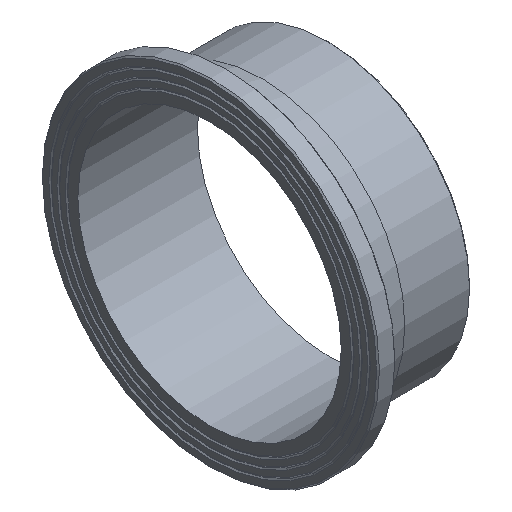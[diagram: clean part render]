
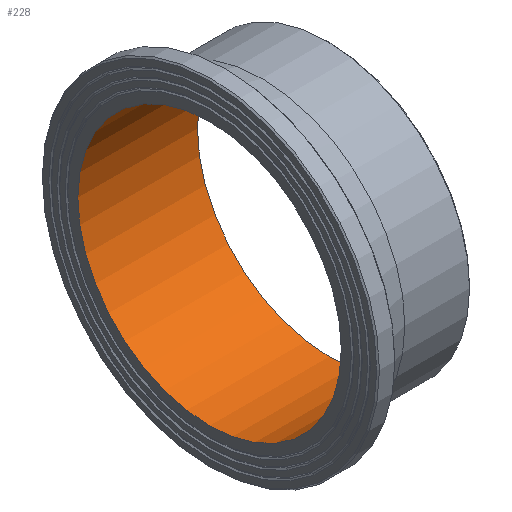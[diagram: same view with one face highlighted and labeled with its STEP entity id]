
A CAD part, isometric view. The second image highlights one B-rep face of the part: STEP entity #228.
In plain terms, the highlighted cylindrical face has radius 145.4 mm (diameter 290.8 mm), a full revolution.
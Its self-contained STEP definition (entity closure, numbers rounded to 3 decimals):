
#33=CYLINDRICAL_SURFACE('',#274,145.4);
#50=ORIENTED_EDGE('',*,*,#79,.F.);
#51=ORIENTED_EDGE('',*,*,#76,.T.);
#76=EDGE_CURVE('',#96,#96,#116,.T.);
#79=EDGE_CURVE('',#99,#99,#119,.T.);
#96=VERTEX_POINT('',#383);
#99=VERTEX_POINT('',#390);
#116=CIRCLE('',#257,145.4);
#119=CIRCLE('',#261,145.4);
#150=EDGE_LOOP('',(#50));
#151=EDGE_LOOP('',(#51));
#190=FACE_BOUND('',#150,.T.);
#191=FACE_BOUND('',#151,.T.);
#228=ADVANCED_FACE('',(#190,#191),#33,.F.);
#257=AXIS2_PLACEMENT_3D('',#382,#303,#304);
#261=AXIS2_PLACEMENT_3D('',#389,#311,#312);
#274=AXIS2_PLACEMENT_3D('',#410,#337,#338);
#303=DIRECTION('',(-1.,0.,0.));
#304=DIRECTION('',(0.,0.,1.));
#311=DIRECTION('',(-1.,0.,0.));
#312=DIRECTION('',(0.,0.,1.));
#337=DIRECTION('',(-1.,0.,0.));
#338=DIRECTION('',(0.,0.,1.));
#382=CARTESIAN_POINT('',(0.,0.,0.));
#383=CARTESIAN_POINT('',(0.,0.,145.4));
#389=CARTESIAN_POINT('',(132.,0.,0.));
#390=CARTESIAN_POINT('',(132.,0.,145.4));
#410=CARTESIAN_POINT('',(60.,0.,0.));
